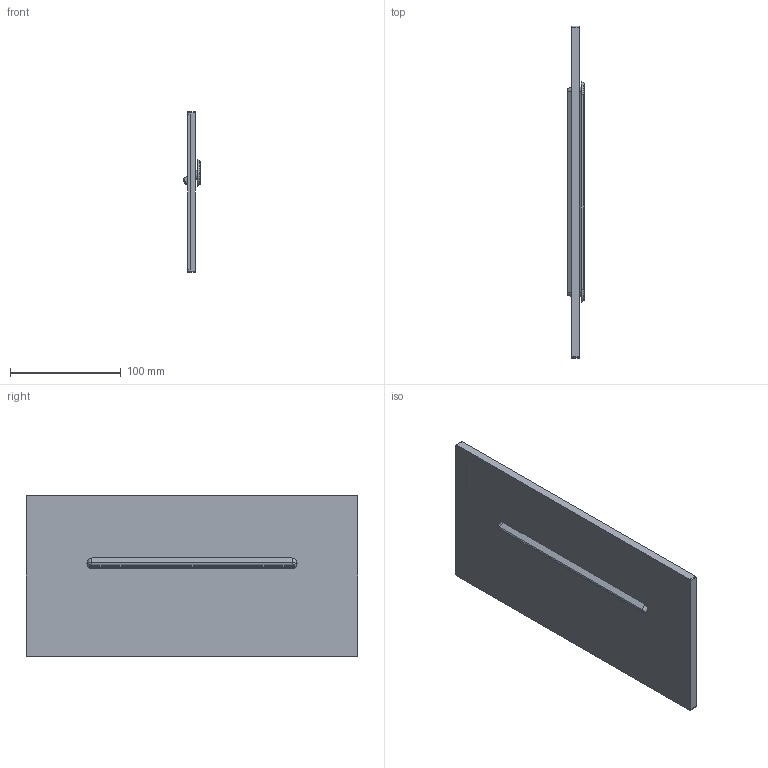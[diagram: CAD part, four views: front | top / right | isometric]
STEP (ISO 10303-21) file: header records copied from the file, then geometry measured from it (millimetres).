
FILE_DESCRIPTION((''),'2;1');
FILE_NAME('F2782_ASM','2025-03-21T09:49:10',('ivanv'),(''),'CREO PARAMETRIC BY PTC INC, 2024103','CREO PARAMETRIC BY PTC INC, 2024103','');
FILE_SCHEMA(('CONFIG_CONTROL_DESIGN'));
Length unit declared in the file: millimetre
Products named in the file (3): C073014_03800ZZ_1; A030117_0101ZZ_1; F2782_ASM
Assembly tree (2 placements, depth 2):
  F2782_ASM
    C073014_03800ZZ_1
    A030117_0101ZZ_1
Bounding box: 16.21 x 300 x 145 mm (x, y, z)
Volume: 83563.8 mm3; surface area: 116587.2 mm2
Topology: 2 solids, 2 shells, 234 faces, 719 edges, 487 vertices
Faces by surface type: plane 96, cylinder 90, torus 30, cone 18
Entity records: 8400 total; most frequent: CARTESIAN_POINT 1591, DIRECTION 1480, ORIENTED_EDGE 1438, EDGE_CURVE 719, AXIS2_PLACEMENT_3D 550, VERTEX_POINT 487, VECTOR 380, LINE 380
